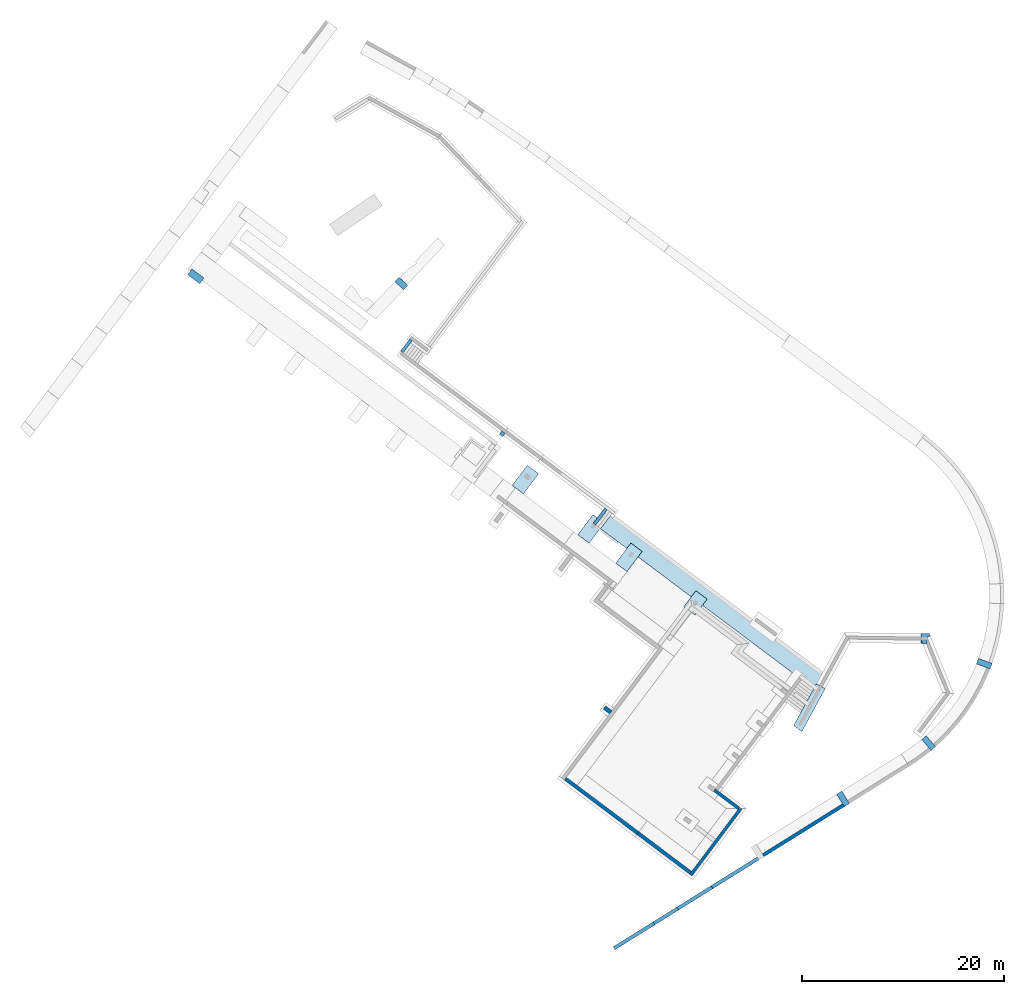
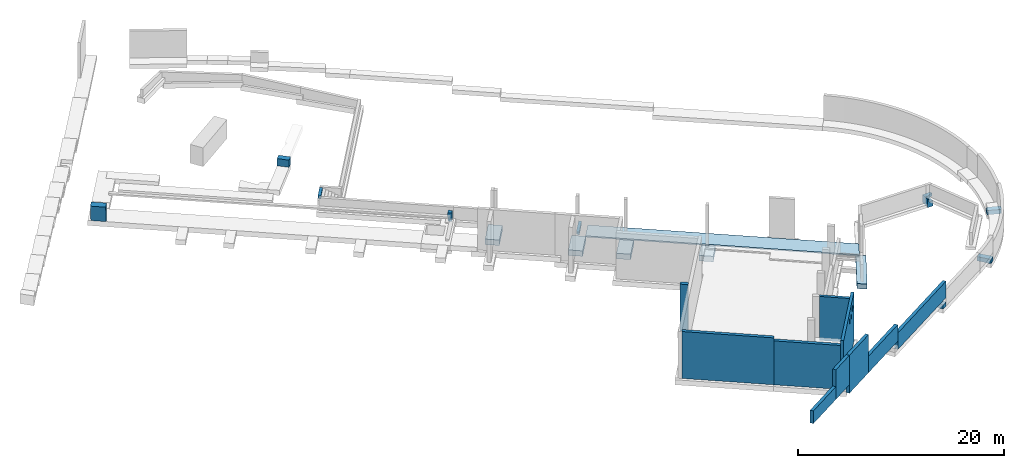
# One storey, part 4 of 9: 15 slabs, 10 walls, 3 openings, 2 elements without a shape of their own.
"""IFC2X3 building model written with IfcOpenShell, lengths in metres."""

from ifc_helpers import new_model, entity, si_unit, converted_unit, derived_unit, direction, frame, frame_2d, origin, place, context, subcontext, project, spatial, polyline, circle_curve, parameter, trimmed, segment, composite_curve, rectangle, circle, outline, extrude, clip, halfspace, bounded_halfspace, faceted_brep, material, layer, layer_set, layer_usage, type_object, element, aggregate, save


model = new_model("IFC2X3")

# Units and contexts
model_context = context("Model", 3, precision=1e-05, world=origin(), true_north=direction((6.123031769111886e-17, 1.0)))
body_context = subcontext(model_context, "Body", "Model", "MODEL_VIEW")
ifc_project = project(units=[si_unit("LENGTHUNIT", "METRE"), si_unit("AREAUNIT", "SQUARE_METRE"), si_unit("VOLUMEUNIT", "CUBIC_METRE"), converted_unit("PLANEANGLEUNIT", "DEGREE", entity("IfcRatioMeasure", 0.017453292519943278), si_unit("PLANEANGLEUNIT", "RADIAN"), dimensions=[0, 0, 0, 0, 0, 0, 0]), si_unit("MASSUNIT", "GRAM", prefix="KILO"), derived_unit("MASSDENSITYUNIT", [(si_unit("MASSUNIT", "GRAM", prefix="KILO"), 1), (si_unit("LENGTHUNIT", "METRE"), -3)]), derived_unit("IONCONCENTRATIONUNIT", [(si_unit("MASSUNIT", "GRAM", prefix="KILO"), 1), (si_unit("LENGTHUNIT", "METRE"), -3)]), derived_unit("MOMENTOFINERTIAUNIT", [(si_unit("LENGTHUNIT", "METRE"), 4)]), si_unit("TIMEUNIT", "SECOND"), si_unit("FREQUENCYUNIT", "HERTZ"), si_unit("THERMODYNAMICTEMPERATUREUNIT", "DEGREE_CELSIUS"), derived_unit("THERMALTRANSMITTANCEUNIT", [(si_unit("MASSUNIT", "GRAM", prefix="KILO"), 1), (si_unit("THERMODYNAMICTEMPERATUREUNIT", "KELVIN"), -1), (si_unit("TIMEUNIT", "SECOND"), -3)]), derived_unit("THERMALCONDUCTANCEUNIT", [(si_unit("MASSUNIT", "GRAM", prefix="KILO"), 1), (si_unit("THERMODYNAMICTEMPERATUREUNIT", "KELVIN"), -1), (si_unit("TIMEUNIT", "SECOND"), -3), (si_unit("LENGTHUNIT", "METRE"), 1)]), derived_unit("VOLUMETRICFLOWRATEUNIT", [(si_unit("LENGTHUNIT", "METRE"), 3), (si_unit("TIMEUNIT", "SECOND"), -1)]), derived_unit("MASSFLOWRATEUNIT", [(si_unit("MASSUNIT", "GRAM", prefix="KILO"), 1), (si_unit("TIMEUNIT", "SECOND"), -1)]), derived_unit("ROTATIONALFREQUENCYUNIT", [(si_unit("TIMEUNIT", "SECOND"), -1)]), si_unit("ELECTRICCURRENTUNIT", "AMPERE"), si_unit("ELECTRICVOLTAGEUNIT", "VOLT"), si_unit("POWERUNIT", "WATT"), si_unit("FORCEUNIT", "NEWTON", prefix="KILO"), si_unit("ILLUMINANCEUNIT", "LUX"), si_unit("LUMINOUSFLUXUNIT", "LUMEN"), si_unit("LUMINOUSINTENSITYUNIT", "CANDELA"), derived_unit("USERDEFINED", [(si_unit("MASSUNIT", "GRAM", prefix="KILO"), -1), (si_unit("LENGTHUNIT", "METRE"), -2), (si_unit("TIMEUNIT", "SECOND"), 3), (si_unit("LUMINOUSFLUXUNIT", "LUMEN"), 1)]), derived_unit("USERDEFINED", [(si_unit("MASSUNIT", "GRAM", prefix="KILO"), 1), (si_unit("TIMEUNIT", "SECOND"), -3), (si_unit("LENGTHUNIT", "METRE"), 3), (si_unit("ELECTRICCURRENTUNIT", "AMPERE"), -2)]), derived_unit("SOUNDPOWERUNIT", [(si_unit("MASSUNIT", "GRAM", prefix="KILO"), 1), (si_unit("TIMEUNIT", "SECOND"), -3), (si_unit("LENGTHUNIT", "METRE"), 2)]), derived_unit("SOUNDPRESSUREUNIT", [(si_unit("MASSUNIT", "GRAM", prefix="KILO"), 1), (si_unit("LENGTHUNIT", "METRE"), -1), (si_unit("TIMEUNIT", "SECOND"), -2)]), derived_unit("LINEARVELOCITYUNIT", [(si_unit("LENGTHUNIT", "METRE"), 1), (si_unit("TIMEUNIT", "SECOND"), -1)]), si_unit("PRESSUREUNIT", "PASCAL"), derived_unit("USERDEFINED", [(si_unit("MASSUNIT", "GRAM", prefix="KILO"), 1), (si_unit("LENGTHUNIT", "METRE"), -2), (si_unit("TIMEUNIT", "SECOND"), -2)]), derived_unit("LINEARFORCEUNIT", [(si_unit("MASSUNIT", "GRAM", prefix="KILO"), 1), (si_unit("TIMEUNIT", "SECOND"), -2)]), derived_unit("PLANARFORCEUNIT", [(si_unit("MASSUNIT", "GRAM", prefix="KILO"), 1), (si_unit("LENGTHUNIT", "METRE"), -1), (si_unit("TIMEUNIT", "SECOND"), -2)]), derived_unit("SPECIFICHEATCAPACITYUNIT", [(si_unit("THERMODYNAMICTEMPERATUREUNIT", "KELVIN"), -1), (si_unit("LENGTHUNIT", "METRE"), 2), (si_unit("TIMEUNIT", "SECOND"), -2)]), derived_unit("HEATINGVALUEUNIT", [(si_unit("LENGTHUNIT", "METRE"), 2), (si_unit("TIMEUNIT", "SECOND"), -2)]), derived_unit("VAPORPERMEABILITYUNIT", [(si_unit("LENGTHUNIT", "METRE"), -1), (si_unit("TIMEUNIT", "SECOND"), 1)]), derived_unit("DYNAMICVISCOSITYUNIT", [(si_unit("MASSUNIT", "GRAM", prefix="KILO"), 1), (si_unit("TIMEUNIT", "SECOND"), -1), (si_unit("LENGTHUNIT", "METRE"), -1)]), derived_unit("THERMALEXPANSIONCOEFFICIENTUNIT", [(si_unit("THERMODYNAMICTEMPERATUREUNIT", "KELVIN"), -1)]), derived_unit("MODULUSOFELASTICITYUNIT", [(si_unit("MASSUNIT", "GRAM", prefix="KILO"), 1), (si_unit("LENGTHUNIT", "METRE"), -1), (si_unit("TIMEUNIT", "SECOND"), -2)]), derived_unit("ISOTHERMALMOISTURECAPACITYUNIT", [(si_unit("LENGTHUNIT", "METRE"), 3), (si_unit("MASSUNIT", "GRAM", prefix="KILO"), -1)]), derived_unit("MOISTUREDIFFUSIVITYUNIT", [(si_unit("TIMEUNIT", "SECOND"), -1), (si_unit("LENGTHUNIT", "METRE"), 2)])], contexts=[model_context])

# Site, building, storey
site_placement = place(None, origin())
site = spatial("IfcSite", under=ifc_project, at=site_placement, Name="Default", CompositionType="ELEMENT")
building_placement = place(site_placement, frame((0.0, 0.0, 235.0), z_axis=(0.0, 0.0, 1.0), x_axis=(-0.7996477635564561, 0.6004693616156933, 0.0)))
building = spatial("IfcBuilding", under=site, at=building_placement, CompositionType="ELEMENT")
storey_placement = place(building_placement, frame((0.0, 0.0, -5.4499999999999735)))
storey = spatial("IfcBuildingStorey", under=building, at=storey_placement, Name="PS1- Gimnàs", CompositionType="ELEMENT", Elevation=-5.4499999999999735)

# Slab
ifc_material_1 = material(Name="_Formigó- Solera- T1 ext- STR")
ifc_layer_1 = layer(ifc_material_1, 0.14999999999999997)
ifc_layer_set_1 = layer_set([ifc_layer_1], Name="Suelo:STR- L- Formigó- Solera exterior- T1- 15 cm")
ifc_layer_usage_1 = layer_usage(ifc_layer_set_1, "AXIS3", "POSITIVE", 0.0)
slab_type_1 = type_object("IfcSlabType", Name="Suelo:STR- L- Formigó- Solera exterior- T1- 15 cm", PredefinedType="FLOOR", material=ifc_layer_set_1)
slab_1_placement = place(storey_placement, origin())
element("IfcSlab", 1, at=slab_1_placement, inside=storey, type_object=slab_type_1, material=ifc_layer_usage_1, Name="Suelo:STR- L- Formigó- Solera exterior- T1- 15 cm", ObjectType="Suelo:STR- L- Formigó- Solera exterior- T1- 15 cm", PredefinedType="FLOOR", context=body_context, shape_type="SweptSolid", body=[
    clip(clip(extrude(outline(polyline([(-13.329977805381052, -0.9501184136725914), (13.191130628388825, -0.9501184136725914), (13.468824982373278, 0.9501184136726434), (-13.329977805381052, 0.9501184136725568), (-13.329977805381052, -0.9501184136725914)])), frame((14.415169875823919, -41.09019175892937, -0.045000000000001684), z_axis=(0.0, 0.015787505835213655, -0.9998753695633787), x_axis=(-1.0, 0.0, 0.0)), (0.0, -0.015787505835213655, 0.9998753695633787), 0.15001869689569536), halfspace(frame((14.415169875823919, -41.09019175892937, -0.19500000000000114), z_axis=(0.0, 0.015787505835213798, -0.9998753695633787), x_axis=(0.0, 0.9998753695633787, 0.015787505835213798)), False)), halfspace(frame((14.415169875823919, -41.09019175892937, -0.045000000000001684), z_axis=(0.0, -0.015787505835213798, 0.9998753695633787), x_axis=(0.0, 0.9998753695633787, 0.015787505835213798)), False)),
])

# Stair, slab
stair_1_placement = place(storey_placement, origin())
stair_1 = element("IfcStair", 2, at=stair_1_placement, inside=storey, Name="Escalera moldeada in situ:Escalera", ObjectType="Escalera moldeada in situ:E-X1- Exterior", ShapeType="STRAIGHT_RUN_STAIR")
ifc_material_2 = material(Name="_Formigó- T1- STR")
slab_type_2 = type_object("IfcSlabType", Name="Descansillo monolítico:STR- Repla formigó 15cm", PredefinedType="LANDING")
slab_2_placement = place(stair_1_placement, frame((28.345147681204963, -42.040191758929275, 0.0)))
slab_2 = element("IfcSlab", 3, at=slab_2_placement, type_object=slab_type_2, material=ifc_material_2, Name="Escalera moldeada in situ:Escalera:41321 Landing 1", ObjectType="Descansillo monolítico:STR- Repla formigó 15cm", PredefinedType="LANDING", context=body_context, shape_type="SweptSolid", body=[
    extrude(outline(polyline([(-0.1466627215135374, -0.15000000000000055), (0.0033372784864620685, -0.15000000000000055), (0.0749921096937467, -0.15000000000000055), (0.21832544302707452, 0.15000000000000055), (-0.003329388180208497, 0.15000000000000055), (-0.1466627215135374, 0.15000000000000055), (-0.1466627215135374, -0.15000000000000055)])), frame((0.15000000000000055, 0.0, 0.22333727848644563), z_axis=(0.0, 1.0, 0.0), x_axis=(0.0, 0.0, -1.0)), (0.0, 0.0, 1.0), 1.899999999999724),
])
aggregate(stair_1, [slab_2])

stair_2_placement = place(storey_placement, origin())
stair_2 = element("IfcStair", 4, at=stair_2_placement, inside=storey, Name="Escalera moldeada in situ:Escalera", ObjectType="Escalera moldeada in situ:E-X1- Exterior", ShapeType="STRAIGHT_RUN_STAIR")
slab_3_placement = place(stair_2_placement, frame((53.895147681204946, -43.84019175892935, 0.0)))
slab_3 = element("IfcSlab", 5, at=slab_3_placement, type_object=slab_type_2, material=ifc_material_2, Name="Escalera moldeada in situ:Escalera:41333 Landing 1", ObjectType="Descansillo monolítico:STR- Repla formigó 15cm", PredefinedType="LANDING", context=body_context, shape_type="SweptSolid", body=[
    extrude(outline(polyline([(-0.146458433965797, -0.15000000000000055), (0.0035415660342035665, -0.15000000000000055), (0.07505972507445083, -0.15000000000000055), (0.2179168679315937, 0.15000000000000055), (-0.0036012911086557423, 0.15000000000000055), (-0.146458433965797, 0.15000000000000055), (-0.146458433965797, -0.15000000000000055)])), frame((0.15000000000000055, 0.0, 0.7935415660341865), z_axis=(0.0, 1.0, 0.0), x_axis=(0.0, 0.0, -1.0)), (0.0, 0.0, 1.0), 1.499999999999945),
])
aggregate(stair_2, [slab_3])

# Slabs
ifc_material_3 = material(Name="_Formigó Pobre- T1- STR")
slab_type_3 = type_object("IfcSlabType", Name="STR- S- Fromigó- Sabata eix 13:STR- S- Fromigó- Sabata eix 13", PredefinedType="BASESLAB", material=ifc_material_3)
slab_4_placement = place(storey_placement, frame((74.1451476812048, -36.41519175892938, 0.549999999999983)))
element("IfcSlab", 6, at=slab_4_placement, inside=storey, type_object=slab_type_3, Name="STR- S- Fromigó- Sabata eix 13:STR- S- Fromigó- Sabata eix 13", ObjectType="STR- S- Fromigó- Sabata eix 13:STR- S- Fromigó- Sabata eix 13", PredefinedType="BASESLAB", context=body_context, shape_type="SweptSolid", body=[
    extrude(outline(polyline([(-0.46088082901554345, -1.0), (0.2536269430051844, -1.0), (0.25362694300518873, 1.0), (-0.04637305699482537, 1.0), (-0.46088082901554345, -1.0)])), frame((0.0, 0.25362694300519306, 1.0), z_axis=(1.0, 0.0, 0.0), x_axis=(0.0, -1.0, 0.0)), (0.0, 0.0, 1.0), 1.5000000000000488),
])
slab_type_4 = type_object("IfcSlabType", Name="STR- S- Formigó- Rectangular- T1:140x250x60 cm", PredefinedType="BASESLAB", material=ifc_material_2)
slab_5_placement = place(storey_placement, frame((35.94514768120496, -40.81519175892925, -0.6000000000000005)))
element("IfcSlab", 7, at=slab_5_placement, inside=storey, type_object=slab_type_4, Name="STR- S- Formigó- Rectangular- T1:140x250x60 cm", ObjectType="STR- S- Formigó- Rectangular- T1:140x250x60 cm", PredefinedType="BASESLAB", context=body_context, shape_type="SweptSolid", body=[
    extrude(rectangle(XDim=1.399999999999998, YDim=2.499999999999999, at=frame_2d((-0.060000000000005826, -0.250000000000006), x_axis=(1.0, 0.0))), frame((0.7600000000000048, 1.5000000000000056, 0.049999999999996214)), (0.0, 0.0, 1.0), 0.6000000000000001),
    extrude(rectangle(XDim=1.3999999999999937, YDim=2.4999999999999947, at=frame_2d((0.0, -4.3298697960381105e-15), x_axis=(1.0, 0.0))), frame((0.7000000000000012, 1.2499999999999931, 0.0), z_axis=(0.0, 0.0, 1.0), x_axis=(-1.0, 0.0, 0.0)), (0.0, 0.0, 1.0), 0.04999999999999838),
])
for number, where in (
    (8, (23.09514768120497, -40.81519175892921, -1.2000000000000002)),
    (9, (27.79514768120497, -40.81519175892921, -1.2000000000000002)),
):
    element("IfcSlab", number, at=place(storey_placement, frame(where)), inside=storey, type_object=slab_type_4, Name="STR- S- Formigó- Rectangular- T1:140x250x60 cm", ObjectType="STR- S- Formigó- Rectangular- T1:140x250x60 cm", PredefinedType="BASESLAB", context=body_context, shape_type="SweptSolid", body=[
        extrude(rectangle(XDim=1.3999999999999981, YDim=2.5000000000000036, at=frame_2d((-2.1649348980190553e-15, 0.0), x_axis=(1.0, 0.0))), frame((0.6999999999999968, 1.2500000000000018, 0.0499999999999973), z_axis=(0.0, 0.0, 1.0), x_axis=(-1.0, 0.0, 0.0)), (0.0, 0.0, 1.0), 0.6000000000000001),
        extrude(rectangle(XDim=1.3999999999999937, YDim=2.4999999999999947, at=frame_2d((0.0, -4.3298697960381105e-15), x_axis=(1.0, 0.0))), frame((0.6999999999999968, 1.2500000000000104, 0.0)), (0.0, 0.0, 1.0), 0.04999999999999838),
    ])
slab_type_5 = type_object("IfcSlabType", Name="STR- S- Formigó- Rectangular- T1:140x200x60 cm", PredefinedType="BASESLAB", material=ifc_material_2)
slab_6_placement = place(storey_placement, frame((15.095147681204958, -40.91519175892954, -1.2000000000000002)))
element("IfcSlab", 10, at=slab_6_placement, inside=storey, type_object=slab_type_5, Name="STR- S- Formigó- Rectangular- T1:140x200x60 cm", ObjectType="STR- S- Formigó- Rectangular- T1:140x200x60 cm", PredefinedType="BASESLAB", context=body_context, shape_type="SweptSolid", body=[
    extrude(rectangle(XDim=1.4000000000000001, YDim=2.0, at=frame_2d((1.1102230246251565e-15, -2.1649348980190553e-15), x_axis=(1.0, 0.0))), frame((0.7000000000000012, 1.0, 0.0499999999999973), z_axis=(0.0, 0.0, 1.0), x_axis=(-1.0, 0.0, 0.0)), (0.0, 0.0, 1.0), 0.6000000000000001),
    extrude(rectangle(XDim=1.399999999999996, YDim=1.9999999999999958, at=frame_2d((-1.0547118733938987e-15, 0.0), x_axis=(1.0, 0.0))), frame((0.7000000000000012, 1.0, 0.0)), (0.0, 0.0, 1.0), 0.04999999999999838),
])
slab_type_6 = type_object("IfcSlabType", Name="STR- S- Formigó- H1:STR- S- Formigó- H1", PredefinedType="BASESLAB", material=ifc_material_2)
slab_7_placement = place(storey_placement, frame((-0.30991603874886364, -40.84892815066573, -1.150000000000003)))
element("IfcSlab", 11, at=slab_7_placement, inside=storey, type_object=slab_type_6, Name="STR- S- Formigó- H1:STR- S- Formigó- H1", ObjectType="STR- S- Formigó- H1:STR- S- Formigó- H1", PredefinedType="BASESLAB", context=body_context, shape_type="Brep", body=[
    faceted_brep([(1.010654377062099, 4.808736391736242, 0.0), (1.6902728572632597, 0.15873639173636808, 0.0), (0.6796487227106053, 0.15873639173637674, 0.0), (3.024250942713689e-05, 4.808736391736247, 0.0), (3.0242509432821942e-05, 4.808736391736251, 0.6000000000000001), (1.010654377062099, 4.808736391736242, 0.6000000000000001), (0.0, 4.8087319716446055, 0.0), (1.6902706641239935, 0.15873607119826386, 0.0), (1.690270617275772, 0.15873639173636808, 0.24999999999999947), (0.6796197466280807, 0.15873639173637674, 0.24999999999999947), (0.7028198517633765, 0.0, 0.6000000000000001), (1.6923334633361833, 0.1446222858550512, 0.6000000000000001), (1.6923334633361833, 0.1446222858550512, 0.24999999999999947), (0.7028198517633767, 0.0, 0.24999999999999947), (0.0, 4.8087319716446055, 0.6000000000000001)], [[[0, 1, 2, 3]], [[4, 5, 0, 6]], [[2, 7, 8, 9]], [[5, 4, 10, 11]], [[12, 13, 9, 8]], [[1, 0, 5, 11, 12, 8]], [[3, 2, 9, 13, 10, 14]], [[11, 10, 13, 12]]]),
])
slab_type_7 = type_object("IfcSlabType", Name="STR- S- Formigó- Ma urb:STR- S- Formigó- Ma urb", PredefinedType="BASESLAB", material=ifc_material_2)
slab_8_placement = place(storey_placement, frame((-5.001276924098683, -51.411636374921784, -0.9000000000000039)))
element("IfcSlab", 12, at=slab_8_placement, inside=storey, type_object=slab_type_7, Name="STR- S- Formigó- Ma urb:STR- S- Formigó- Ma urb", ObjectType="STR- S- Formigó- Ma urb:STR- S- Formigó- Ma urb", PredefinedType="BASESLAB", context=body_context, shape_type="Brep", body=[
    faceted_brep([(1.0741666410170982, 0.49044074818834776, 0.0), (0.5895099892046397, 0.13673475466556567, 0.0), (0.0, 0.9444958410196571, 0.0), (0.48465665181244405, 1.2982018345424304, 0.0), (0.4846566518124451, 1.2982018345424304, 0.9500000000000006), (1.0741666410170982, 0.49044074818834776, 0.9500000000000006), (1.0741666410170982, 0.49044074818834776, 0.3500000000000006), (0.4846566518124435, 1.2982018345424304, 0.3500000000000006), (0.0, 0.9444958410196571, 0.6000000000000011), (0.34794931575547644, 1.1984318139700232, 0.6000000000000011), (0.34794931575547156, 1.1984318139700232, 0.9500000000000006), (0.5895099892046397, 0.136734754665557, 0.6000000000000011), (0.3831814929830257, 0.41945113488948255, 0.6000000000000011), (0.7174014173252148, 0.9769428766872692, 0.9500000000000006), (0.20321691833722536, 0.1192632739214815, 0.9500000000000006), (0.4021526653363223, 0.0, 0.9500000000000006), (0.4021526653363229, 0.0, 0.6000000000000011), (0.20321691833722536, 0.1192632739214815, 0.6000000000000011), (0.7174014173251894, 0.9769428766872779, 0.6000000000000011)], [[[0, 1, 2, 3]], [[4, 5, 6, 0, 3, 7]], [[3, 2, 8, 9, 10, 4, 7]], [[2, 1, 11, 12, 8]], [[5, 4, 10, 13, 14, 15]], [[16, 17, 12, 11]], [[1, 0, 6, 5, 15, 16, 11]], [[12, 17, 14, 13, 18]], [[15, 14, 17, 16]], [[12, 18, 9, 8]], [[18, 13, 10, 9]]]),
])
slab_type_8 = type_object("IfcSlabType", Name="STR- Connexió sabat mur biblio:STR- Connexió sabat mur biblio", PredefinedType="BASESLAB", material=ifc_material_2)
slab_9_placement = place(storey_placement, frame((57.53466975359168, -48.09942222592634, 0.5499999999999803)))
element("IfcSlab", 13, at=slab_9_placement, inside=storey, type_object=slab_type_8, Name="STR- Connexió sabat mur biblio:STR- Connexió sabat mur biblio", ObjectType="STR- Connexió sabat mur biblio:STR- Connexió sabat mur biblio", PredefinedType="BASESLAB", context=body_context, shape_type="Brep", body=[
    faceted_brep([(1.1921463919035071, 0.0, 0.8499999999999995), (1.260679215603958, 0.5960731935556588, 0.8499999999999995), (0.06853282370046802, 0.733138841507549, 0.8499999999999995), (0.0, 0.1370656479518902, 0.8499999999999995), (0.09934553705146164, 0.12564351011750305, 0.8499999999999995), (0.09938028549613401, 0.12594573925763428, 0.8499999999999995), (1.0928356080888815, 0.011724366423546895, 0.8499999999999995), (1.0928008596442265, 0.011422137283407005, 0.8499999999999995), (1.1921463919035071, 0.0, 0.0), (0.0, 0.1370656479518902, 0.0), (0.06853282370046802, 0.733138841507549, 0.0), (1.260679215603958, 0.5960731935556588, 0.0), (1.1921811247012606, 0.0003020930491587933, 0.0), (1.0928008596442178, 0.011422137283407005, 0.25000000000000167), (0.09934553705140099, 0.1256435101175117, 0.25000000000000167), (1.0928356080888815, 0.01172436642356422, 0.25000000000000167), (0.09938028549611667, 0.12594573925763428, 0.25000000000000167)], [[[0, 1, 2, 3, 4, 5, 6, 7]], [[8, 9, 10, 11, 12]], [[1, 0, 8, 12, 11]], [[2, 1, 11, 10]], [[3, 2, 10, 9]], [[9, 8, 0, 7, 13, 14, 4, 3]], [[15, 6, 5, 16]], [[6, 15, 13, 7]], [[15, 16, 14, 13]], [[16, 5, 4, 14]]]),
])
slab_type_9 = type_object("IfcSlabType", Name="STR- Connexió sabat mur biblio1:STR- Connexió sabat mur biblio", PredefinedType="BASESLAB", material=ifc_material_2)
slab_10_placement = place(storey_placement, frame((40.99514768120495, -42.04019175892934, -0.5499999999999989)))
element("IfcSlab", 14, at=slab_10_placement, inside=storey, type_object=slab_type_9, Name="STR- Connexió sabat mur biblio1:STR- Connexió sabat mur biblio", ObjectType="STR- Connexió sabat mur biblio1:STR- Connexió sabat mur biblio", PredefinedType="BASESLAB", context=body_context, shape_type="SweptSolid", body=[
    extrude(outline(polyline([(-0.529999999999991, -0.2399999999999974), (0.5699999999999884, -0.2399999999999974), (0.5699999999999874, 0.06000000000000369), (-0.07999999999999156, 0.21000000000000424), (-0.529999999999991, 0.21000000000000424), (-0.529999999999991, -0.2399999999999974)])), frame((0.0, 0.2399999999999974, 0.5699999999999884), z_axis=(1.0, 0.0, 0.0), x_axis=(0.0, 0.0, -1.0)), (0.0, 0.0, 1.0), 0.40000000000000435),
])
slab_type_10 = type_object("IfcSlabType", Name="STR- Sabata- Unio sabata MP3:STR- Sabata- Unio sabata MP1", PredefinedType="BASESLAB", material=ifc_material_2)
slab_11_placement = place(storey_placement, frame((-8.371619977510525, -33.69812878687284, -0.4750000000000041)))
element("IfcSlab", 15, at=slab_11_placement, inside=storey, type_object=slab_type_10, Name="STR- Sabata- Unio sabata MP3:STR- Sabata- Unio sabata MP1", ObjectType="STR- Sabata- Unio sabata MP3:STR- Sabata- Unio sabata MP1", PredefinedType="BASESLAB", context=body_context, shape_type="SweptSolid", body=[
    extrude(rectangle(XDim=1.449999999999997, YDim=0.6000000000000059, at=frame_2d((-1.1102230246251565e-15, 4.246603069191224e-15), x_axis=(1.0, 0.0))), frame((0.7844033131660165, 0.5412792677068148, 0.0), z_axis=(0.0, 0.0, 1.0), x_axis=(0.932702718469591, -0.3606461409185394, 0.0)), (0.0, 0.0, 1.0), 0.5000000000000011),
])
slab_type_11 = type_object("IfcSlabType", Name="STR- Sabata- Unio sabata MP4:STR- Sabata- Unio sabata MP1", PredefinedType="BASESLAB", material=ifc_material_2)
slab_12_placement = place(storey_placement, frame((-11.815595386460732, -43.11817126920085, -1.475000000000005)))
element("IfcSlab", 16, at=slab_12_placement, inside=storey, type_object=slab_type_11, Name="STR- Sabata- Unio sabata MP4:STR- Sabata- Unio sabata MP1", ObjectType="STR- Sabata- Unio sabata MP4:STR- Sabata- Unio sabata MP1", PredefinedType="BASESLAB", context=body_context, shape_type="SweptSolid", body=[
    extrude(outline(composite_curve([segment(polyline([(-0.7206013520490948, -0.29114359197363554), (0.7293986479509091, -0.29114359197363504)]), True, "CONTINUOUS"), segment(trimmed(circle_curve(frame_2d((-19.270601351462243, -0.29114359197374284), x_axis=(0.8604584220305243, 0.5095206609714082)), 19.999999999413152), [parameter(329.368093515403)], [parameter(331.0992309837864)], True, "PARAMETER"), True, "CONTINUOUS"), segment(polyline([(0.7202704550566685, 0.31304544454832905), (-0.7290677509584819, 0.26924173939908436)]), True, "CONTINUOUS"), segment(trimmed(circle_curve(frame_2d((-19.270601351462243, -0.29114359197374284), x_axis=(0.8604584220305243, 0.509520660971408)), 18.54999999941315), [parameter(329.3680935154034)], [parameter(331.09923098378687)], True, "PARAMETER"), False, "CONTINUOUS")], self_intersect=False)), frame((0.7749921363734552, 0.43335150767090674, 0.0), z_axis=(0.0, 0.0, 1.0), x_axis=(-0.972457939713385, 0.2330784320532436, 0.0)), (0.0, 0.0, 1.0), 0.5000000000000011),
])
slab_type_12 = type_object("IfcSlabType", Name="STR- Sabata- Unio sabata MP5:STR- Sabata- Unio sabata MP1", PredefinedType="BASESLAB", material=ifc_material_2)
slab_13_placement = place(storey_placement, frame((-11.51469227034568, -52.793513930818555, -2.475000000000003)))
element("IfcSlab", 17, at=slab_13_placement, inside=storey, type_object=slab_type_12, Name="STR- Sabata- Unio sabata MP5:STR- Sabata- Unio sabata MP1", ObjectType="STR- Sabata- Unio sabata MP5:STR- Sabata- Unio sabata MP1", PredefinedType="BASESLAB", context=body_context, shape_type="Brep", body=[
    faceted_brep([(1.4761340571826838, 0.6982535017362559, 0.49999999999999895), (1.399409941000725, 0.968451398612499, 0.49999999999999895), (0.0015952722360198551, 0.5829463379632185, 0.49999999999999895), (0.08431669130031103, 0.2916278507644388, 0.49999999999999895), (0.17143957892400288, 0.0015952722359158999, 0.49999999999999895), (1.5569405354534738, 0.42924828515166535, 0.49999999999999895), (1.399409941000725, 0.968451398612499, 0.0), (0.001595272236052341, 0.5829463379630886, 0.0), (0.08431669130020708, 0.29162785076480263, 0.0), (0.17143957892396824, 0.001595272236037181, 0.0), (1.556940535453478, 0.42924828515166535, 0.0), (1.4761340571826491, 0.6982535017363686, 0.0)], [[[0, 1, 2, 3, 4, 5]], [[2, 1, 6, 7]], [[2, 7, 8, 3]], [[8, 9, 4, 3]], [[5, 4, 9, 10]], [[10, 11, 0, 5]], [[6, 1, 0, 11]], [[11, 10, 9, 8, 7, 6]]]),
])

# Wall, openings
ifc_layer_2 = layer(ifc_material_2, 0.29999999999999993)
ifc_layer_set_2 = layer_set([ifc_layer_2], Name="Muro básico:STR- M- Formigó- Genèric- T1- 30 cm")
ifc_layer_usage_2 = layer_usage(ifc_layer_set_2, "AXIS2", "POSITIVE", -0.14999999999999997)
wall_type_1 = type_object("IfcWallType", Name="Muro básico:STR- M- Formigó- Genèric- T1- 30 cm", PredefinedType="STANDARD", material=ifc_layer_set_2)
wall_1_placement = place(storey_placement, frame((-0.04416658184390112, -18.04018994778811, -0.5500000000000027), z_axis=(0.0, 0.0, 1.0), x_axis=(0.0, -1.0, 0.0)))
wall_1 = element("IfcWallStandardCase", 18, at=wall_1_placement, inside=storey, type_object=wall_type_1, material=ifc_layer_usage_2, Name="Muro básico:STR- M- Formigó- Genèric- T1- 30 cm", ObjectType="Muro básico:STR- M- Formigó- Genèric- T1- 30 cm", context=body_context, shape_type="SweptSolid", body=[
    extrude(rectangle(XDim=8.299799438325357, YDim=0.29999999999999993, at=frame_2d((4.149899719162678, 1.3877787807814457e-17), x_axis=(-1.0, 0.0))), origin(), (0.0, 0.0, 1.0), 5.799999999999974),
])
opening_1_placement = place(wall_1_placement, origin())
element("IfcOpeningElement", 19, at=opening_1_placement, cuts=wall_1, Name="Muro básico:STR- M- Formigó- Genèric- T1- 30 cm", ObjectType="Opening", context=body_context, shape_type="SweptSolid", body=[
    extrude(circle(Radius=0.29999999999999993, at=frame_2d((0.0, -5.414335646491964e-16), x_axis=(1.0, 0.0))), frame((7.049799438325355, 0.14999999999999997, 4.718999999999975), z_axis=(0.0, -1.0, 0.0), x_axis=(-1.0, 0.0, 0.0)), (0.0, 0.0, 1.0), 0.29999999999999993),
])
opening_2_placement = place(wall_1_placement, origin())
element("IfcOpeningElement", 20, at=opening_2_placement, cuts=wall_1, Name="Muro básico:STR- M- Formigó- Genèric- T1- 30 cm", ObjectType="Opening", context=body_context, shape_type="SweptSolid", body=[
    extrude(circle(Radius=0.29999999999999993, at=frame_2d((0.0, -5.414335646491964e-16), x_axis=(1.0, 0.0))), frame((4.949799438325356, 0.14999999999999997, 4.718999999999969), z_axis=(0.0, -1.0, 0.0), x_axis=(-1.0, 0.0, 0.0)), (0.0, 0.0, 1.0), 0.29999999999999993),
])
opening_3_placement = place(wall_1_placement, origin())
element("IfcOpeningElement", 21, at=opening_3_placement, cuts=wall_1, Name="Muro básico:STR- M- Formigó- Genèric- T1- 30 cm", ObjectType="Opening", context=body_context, shape_type="SweptSolid", body=[
    extrude(circle(Radius=0.29999999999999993, at=frame_2d((0.0, -5.414335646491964e-16), x_axis=(1.0, 0.0))), frame((5.999799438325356, 0.14999999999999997, 4.418999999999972), z_axis=(0.0, -1.0, 0.0), x_axis=(-1.0, 0.0, 0.0)), (0.0, 0.0, 1.0), 0.29999999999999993),
])

# Walls
wall_2_placement = place(storey_placement, frame((0.10583341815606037, -26.189989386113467, -0.5500000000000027)))
element("IfcWallStandardCase", 22, at=wall_2_placement, inside=storey, type_object=wall_type_1, material=ifc_layer_usage_2, Name="Muro básico:STR- M- Formigó- Genèric- T1- 30 cm", ObjectType="Muro básico:STR- M- Formigó- Genèric- T1- 30 cm", context=body_context, shape_type="Clipping", body=[
    clip(extrude(rectangle(XDim=3.0393142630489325, YDim=0.3000000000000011, at=frame_2d((1.5196571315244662, -4.85722573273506e-16), x_axis=(-1.0, 0.0))), origin(), (0.0, 0.0, 1.0), 5.209999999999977), bounded_halfspace(frame((0.0, -0.15000000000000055, 5.209999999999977), z_axis=(0.0, 0.0, -1.0), x_axis=(1.0, 0.0, 0.0)), True, frame((0.0, -0.15000000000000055, 5.209999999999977)), polyline([(0.0, 0.0), (3.0393142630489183, 0.0), (3.0393142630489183, 0.3000000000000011), (0.0, 0.3000000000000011), (0.0, 0.0)]))),
])
ifc_layer_3 = layer(ifc_material_2, 0.35)
ifc_layer_set_3 = layer_set([ifc_layer_3], Name="Muro básico:STR- M- Formigó- Genèric- T1- 35 cm")
ifc_layer_usage_3 = layer_usage(ifc_layer_set_3, "AXIS2", "POSITIVE", -0.175)
wall_type_2 = type_object("IfcWallType", Name="Muro básico:STR- M- Formigó- Genèric- T1- 35 cm", PredefinedType="STANDARD", material=ifc_layer_set_3)
wall_3_placement = place(storey_placement, frame((15.645147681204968, -18.215189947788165, -0.5500000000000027), z_axis=(0.0, 0.0, 1.0), x_axis=(-1.0, 0.0, 0.0)))
element("IfcWallStandardCase", 23, at=wall_3_placement, inside=storey, type_object=wall_type_2, material=ifc_layer_usage_3, Name="Muro básico:STR- M- Formigó- Genèric- T1- 35 cm", ObjectType="Muro básico:STR- M- Formigó- Genèric- T1- 35 cm", context=body_context, shape_type="SweptSolid", body=[
    extrude(rectangle(XDim=9.00000000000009, YDim=0.3499999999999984, at=frame_2d((4.500000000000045, -2.914335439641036e-16), x_axis=(-1.0, 0.0))), origin(), (0.0, 0.0, 1.0), 5.559999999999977),
])
wall_4_placement = place(storey_placement, frame((6.645147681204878, -18.215189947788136, -0.5500000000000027), z_axis=(0.0, 0.0, 1.0), x_axis=(-1.0, 0.0, 0.0)))
element("IfcWallStandardCase", 24, at=wall_4_placement, inside=storey, type_object=wall_type_2, material=ifc_layer_usage_3, Name="Muro básico:STR- M- Formigó- Genèric- T1- 35 cm", ObjectType="Muro básico:STR- M- Formigó- Genèric- T1- 35 cm", context=body_context, shape_type="SweptSolid", body=[
    extrude(rectangle(XDim=6.53931426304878, YDim=0.3499999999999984, at=frame_2d((3.26965713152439, -2.3592239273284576e-16), x_axis=(-1.0, 0.0))), origin(), (0.0, 0.0, 1.0), 5.209999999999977),
])
ifc_layer_usage_4 = layer_usage(ifc_layer_set_3, "AXIS2", "NEGATIVE", 0.175)
wall_5_placement = place(storey_placement, frame((-0.0021017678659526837, -12.015191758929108, 2.5249999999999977), z_axis=(0.0, 0.0, 1.0), x_axis=(0.36064614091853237, 0.9327027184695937, 0.0)))
element("IfcWallStandardCase", 25, at=wall_5_placement, inside=storey, type_object=wall_type_2, material=ifc_layer_usage_4, Name="Muro básico:STR- M- Formigó- Genèric- T1- 35 cm", ObjectType="Muro básico:STR- M- Formigó- Genèric- T1- 35 cm", context=body_context, shape_type="SweptSolid", body=[
    extrude(rectangle(XDim=4.663568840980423, YDim=0.3500000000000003, at=frame_2d((2.3317844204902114, 9.853229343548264e-16), x_axis=(-1.0, 0.0))), origin(), (0.0, 0.0, 1.0), 1.5000000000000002),
])
wall_6_placement = place(storey_placement, frame((-1.003502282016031, -14.604741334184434, 2.5249999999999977), z_axis=(0.0, 0.0, 1.0), x_axis=(0.3606427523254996, 0.9327040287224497, 0.0)))
element("IfcWallStandardCase", 26, at=wall_6_placement, inside=storey, type_object=wall_type_2, material=ifc_layer_usage_4, Name="Muro básico:STR- M- Formigó- Genèric- T1- 35 cm", ObjectType="Muro básico:STR- M- Formigó- Genèric- T1- 35 cm", context=body_context, shape_type="SweptSolid", body=[
    extrude(rectangle(XDim=2.7763893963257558, YDim=0.3500000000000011, at=frame_2d((1.3881946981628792, -3.094746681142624e-15), x_axis=(-1.0, 0.0))), origin(), (0.0, 0.0, 1.0), 3.5000000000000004),
])
wall_7_placement = place(storey_placement, frame((-2.4465452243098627, -18.336777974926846, 1.5249999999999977), z_axis=(0.0, 0.0, 1.0), x_axis=(0.3606427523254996, 0.9327040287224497, 0.0)))
element("IfcWallStandardCase", 27, at=wall_7_placement, inside=storey, type_object=wall_type_2, material=ifc_layer_usage_4, Name="Muro básico:STR- M- Formigó- Genèric- T1- 35 cm", ObjectType="Muro básico:STR- M- Formigó- Genèric- T1- 35 cm", context=body_context, shape_type="SweptSolid", body=[
    extrude(rectangle(XDim=4.001308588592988, YDim=0.3499999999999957, at=frame_2d((2.000654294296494, 5.551115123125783e-16), x_axis=(-1.0, 0.0))), origin(), (0.0, 0.0, 1.0), 4.5),
])
wall_8_placement = place(storey_placement, frame((-4.611186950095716, -23.935032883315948, 1.5249999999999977), z_axis=(0.0, 0.0, 1.0), x_axis=(0.3606427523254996, 0.9327040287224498, 0.0)))
element("IfcWallStandardCase", 28, at=wall_8_placement, inside=storey, type_object=wall_type_2, material=ifc_layer_usage_4, Name="Muro básico:STR- M- Formigó- Genèric- T1- 35 cm", ObjectType="Muro básico:STR- M- Formigó- Genèric- T1- 35 cm", context=body_context, shape_type="SweptSolid", body=[
    extrude(rectangle(XDim=6.00217725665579, YDim=0.3499999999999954, at=frame_2d((3.001088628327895, -5.273559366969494e-16), x_axis=(-1.0, 0.0))), origin(), (0.0, 0.0, 1.0), 1.9499999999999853),
])
wall_9_placement = place(storey_placement, frame((-8.208420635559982, -33.23829581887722, 0.5249999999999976), z_axis=(0.0, 0.0, 1.0), x_axis=(0.3606427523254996, 0.93270402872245, 0.0)))
element("IfcWallStandardCase", 29, at=wall_9_placement, inside=storey, type_object=wall_type_2, material=ifc_layer_usage_4, Name="Muro básico:STR- M- Formigó- Genèric- T1- 35 cm", ObjectType="Muro básico:STR- M- Formigó- Genèric- T1- 35 cm", context=body_context, shape_type="SweptSolid", body=[
    extrude(rectangle(XDim=9.974507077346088, YDim=0.3499999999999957, at=frame_2d((4.987253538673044, 1.457167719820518e-15), x_axis=(-1.0, 0.0))), origin(), (0.0, 0.0, 1.0), 1.9499999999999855),
])
ifc_layer_4 = layer(ifc_material_2, 0.4)
ifc_layer_set_4 = layer_set([ifc_layer_4], Name="Muro básico:STR- M- Formigó- Genèric- T1- 40 cm")
ifc_layer_usage_5 = layer_usage(ifc_layer_set_4, "AXIS2", "NEGATIVE", 0.2)
wall_type_3 = type_object("IfcWallType", Name="Muro básico:STR- M- Formigó- Genèric- T1- 40 cm", PredefinedType="STANDARD", material=ifc_layer_set_4)
wall_10_placement = place(storey_placement, frame((15.995147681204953, -26.190191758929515, -0.5500000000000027)))
element("IfcWallStandardCase", 30, at=wall_10_placement, inside=storey, type_object=wall_type_3, material=ifc_layer_usage_5, Name="Muro básico:STR- M- Formigó- Genèric- T1- 40 cm", ObjectType="Muro básico:STR- M- Formigó- Genèric- T1- 40 cm", context=body_context, shape_type="SweptSolid", body=[
    extrude(rectangle(XDim=0.8, YDim=0.3999999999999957, at=frame_2d((0.4, -5.551115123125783e-17), x_axis=(-1.0, 0.0))), origin(), (0.0, 0.0, 1.0), 5.559999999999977),
])

save(model, "model.ifc")
